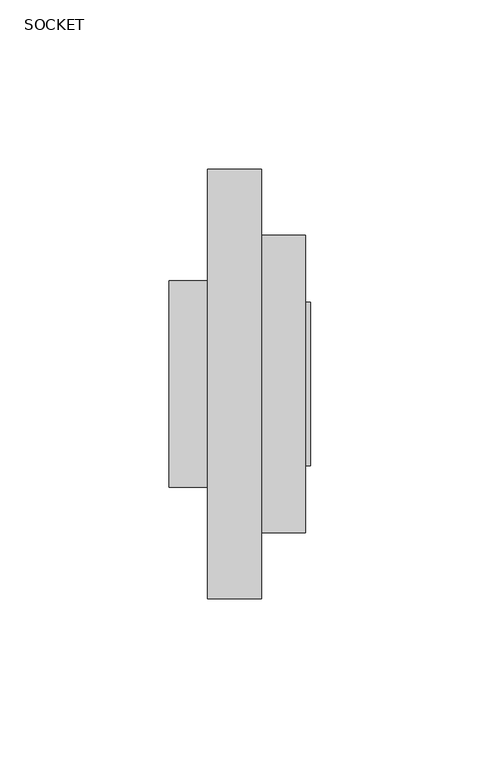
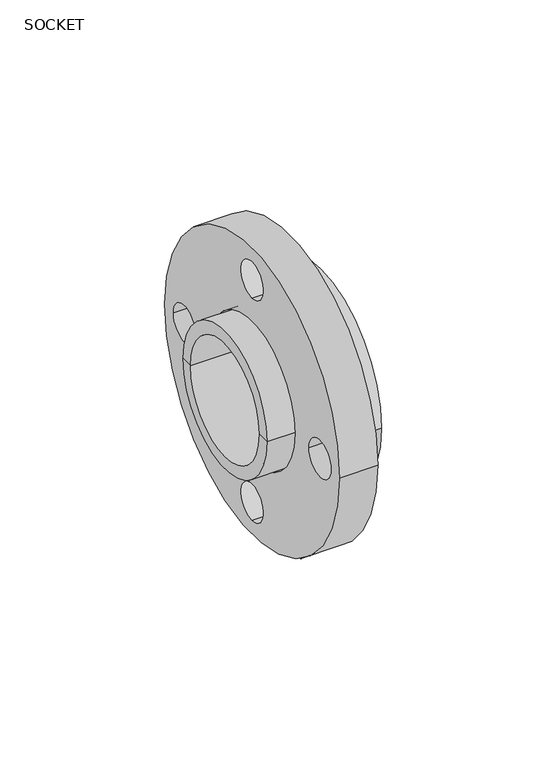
"""IFC4 building model written with IfcOpenShell, lengths in millimetres: valve geometry, Aquatherm - Flange Adapter Socket : SOCKET."""

from ifc_helpers import new_model, si_unit, point, frame, frame_2d, origin, origin_2d, place, context, project, spatial, polyline, circle_curve, trimmed, segment, composite_curve, outline, extrude, source, transform, mapped, element, save
from ifc_brep_helpers import plane_surface, cylinder_surface, revolved_surface, advanced_brep


def socket_f0ba8174(model_context):
    return source(origin(), model_context, "Body", "SolidModel", [
        extrude(outline(composite_curve([segment(trimmed(circle_curve(origin_2d(), 63.5), [point((63.5, 0.0))], [point((-63.5, 0.0))], False, "CARTESIAN"), True, "CONTINUOUS"), segment(trimmed(circle_curve(origin_2d(), 63.5), [point((-63.5, 0.0))], [point((63.5, 0.0))], False, "CARTESIAN"), True, "CONTINUOUS")], self_intersect=False), holes=[composite_curve([segment(trimmed(circle_curve(origin_2d(), 30.988), [point((30.988, 0.0))], [point((-30.988, 0.0))], True, "CARTESIAN"), True, "CONTINUOUS"), segment(trimmed(circle_curve(origin_2d(), 30.988), [point((-30.988, 0.0))], [point((30.988, 0.0))], True, "CARTESIAN"), True, "CONTINUOUS")], self_intersect=False), composite_curve([segment(trimmed(circle_curve(frame_2d((-49.276, 0.0)), 8.001), [point((-41.275, 0.0))], [point((-57.277, 0.0))], True, "CARTESIAN"), True, "CONTINUOUS"), segment(trimmed(circle_curve(frame_2d((-49.276, 0.0)), 8.001), [point((-57.277, 0.0))], [point((-41.275, 0.0))], True, "CARTESIAN"), True, "CONTINUOUS")], self_intersect=False), composite_curve([segment(trimmed(circle_curve(frame_2d((0.0, -49.276)), 8.001), [point((0.0, -41.275))], [point((0.0, -57.277))], True, "CARTESIAN"), True, "CONTINUOUS"), segment(trimmed(circle_curve(frame_2d((0.0, -49.276)), 8.001), [point((0.0, -57.277))], [point((0.0, -41.275))], True, "CARTESIAN"), True, "CONTINUOUS")], self_intersect=False), composite_curve([segment(trimmed(circle_curve(frame_2d((0.0, 49.276)), 8.001), [point((0.0, 41.275))], [point((0.0, 57.277))], True, "CARTESIAN"), True, "CONTINUOUS"), segment(trimmed(circle_curve(frame_2d((0.0, 49.276)), 8.001), [point((0.0, 57.277))], [point((0.0, 41.275))], True, "CARTESIAN"), True, "CONTINUOUS")], self_intersect=False), composite_curve([segment(trimmed(circle_curve(frame_2d((49.276, 0.0)), 8.001), [point((41.275, 0.0))], [point((57.277, 0.0))], True, "CARTESIAN"), True, "CONTINUOUS"), segment(trimmed(circle_curve(frame_2d((49.276, 0.0)), 8.001), [point((57.277, 0.0))], [point((41.275, 0.0))], True, "CARTESIAN"), True, "CONTINUOUS")], self_intersect=False)]), frame((-16.002, 0.0, 0.0), z_axis=(1.0, 0.0, 0.0), x_axis=(0.0, 1.0, 0.0)), (0.0, 0.0, 1.0), 16.002),
        advanced_brep(
        [(14.478, -19.05, 0.0), (14.478, -24.13, 0.0), (14.478, 24.13, 0.0), (14.478, 19.05, 0.0), (-4.064, -19.05, 0.0), (-4.064, 19.05, 0.0), (-4.064, -25.019, 0.0), (-4.064, 25.019, 0.0), (-27.432, -25.019, 0.0), (-27.432, 25.019, 0.0), (-27.432, -30.48, 0.0), (-27.432, 30.48, 0.0), (0.0, -30.48, 0.0), (0.0, 30.48, 0.0), (0.0, -43.942, 0.0), (0.0, 43.942, 0.0), (12.954, -43.942, 0.0), (12.954, 43.942, 0.0), (12.954, -24.13, 0.0), (12.954, 24.13, 0.0)],
        [
            (0, 1),
            (1, 2, circle_curve(frame((14.478, 0.0, 0.0), z_axis=(1.0, 0.0, 0.0), x_axis=(0.0, 1.0, 0.0)), 24.13)),
            (2, 3),
            (3, 0, circle_curve(frame((14.478, 0.0, 0.0), z_axis=(-1.0, 0.0, 0.0), x_axis=(0.0, 1.0, 0.0)), 19.05)),
            (2, 1, circle_curve(frame((14.478, 0.0, 0.0), z_axis=(1.0, 0.0, 0.0), x_axis=(0.0, 1.0, 0.0)), 24.13)),
            (0, 3, circle_curve(frame((14.478, 0.0, 0.0), z_axis=(-1.0, 0.0, 0.0), x_axis=(0.0, 1.0, 0.0)), 19.05)),
            (4, 0),
            (3, 5),
            (5, 4, circle_curve(frame((-4.064, 0.0, 0.0), z_axis=(-1.0, 0.0, 0.0), x_axis=(0.0, 1.0, 0.0)), 19.05)),
            (4, 5, circle_curve(frame((-4.064, 0.0, 0.0), z_axis=(-1.0, 0.0, 0.0), x_axis=(0.0, 1.0, 0.0)), 19.05)),
            (6, 4),
            (5, 7),
            (7, 6, circle_curve(frame((-4.064, 0.0, 0.0), z_axis=(-1.0, 0.0, 0.0), x_axis=(0.0, 1.0, 0.0)), 25.019)),
            (6, 7, circle_curve(frame((-4.064, 0.0, 0.0), z_axis=(-1.0, 0.0, 0.0), x_axis=(0.0, 1.0, 0.0)), 25.019)),
            (8, 6),
            (7, 9),
            (9, 8, circle_curve(frame((-27.432, 0.0, 0.0), z_axis=(-1.0, 0.0, 0.0), x_axis=(0.0, 1.0, 0.0)), 25.019)),
            (8, 9, circle_curve(frame((-27.432, 0.0, 0.0), z_axis=(-1.0, 0.0, 0.0), x_axis=(0.0, 1.0, 0.0)), 25.019)),
            (10, 8),
            (9, 11),
            (11, 10, circle_curve(frame((-27.432, 0.0, 0.0), z_axis=(-1.0, 0.0, 0.0), x_axis=(0.0, 1.0, 0.0)), 30.48)),
            (10, 11, circle_curve(frame((-27.432, 0.0, 0.0), z_axis=(-1.0, 0.0, 0.0), x_axis=(0.0, 1.0, 0.0)), 30.48)),
            (12, 10),
            (11, 13),
            (13, 12, circle_curve(frame((0.0, 0.0, 0.0), z_axis=(-1.0, 0.0, 0.0), x_axis=(0.0, 1.0, 0.0)), 30.48)),
            (12, 13, circle_curve(frame((0.0, 0.0, 0.0), z_axis=(-1.0, 0.0, 0.0), x_axis=(0.0, 1.0, 0.0)), 30.48)),
            (14, 12),
            (13, 15),
            (15, 14, circle_curve(frame((0.0, 0.0, 0.0), z_axis=(-1.0, 0.0, 0.0), x_axis=(0.0, 1.0, 0.0)), 43.942)),
            (14, 15, circle_curve(frame((0.0, 0.0, 0.0), z_axis=(-1.0, 0.0, 0.0), x_axis=(0.0, 1.0, 0.0)), 43.942)),
            (16, 14),
            (15, 17),
            (17, 16, circle_curve(frame((12.954, 0.0, 0.0), z_axis=(-1.0, 0.0, 0.0), x_axis=(0.0, 1.0, 0.0)), 43.942)),
            (16, 17, circle_curve(frame((12.954, 0.0, 0.0), z_axis=(-1.0, 0.0, 0.0), x_axis=(0.0, 1.0, 0.0)), 43.942)),
            (18, 16),
            (17, 19),
            (19, 18, circle_curve(frame((12.954, 0.0, 0.0), z_axis=(-1.0, 0.0, 0.0), x_axis=(0.0, 1.0, 0.0)), 24.13)),
            (18, 19, circle_curve(frame((12.954, 0.0, 0.0), z_axis=(-1.0, 0.0, 0.0), x_axis=(0.0, 1.0, 0.0)), 24.13)),
            (1, 18),
            (19, 2),
        ],
        [
            plane_surface(frame((14.478, 0.0, 0.0), z_axis=(1.0, 0.0, 0.0), x_axis=(0.0, 1.0, 0.0))),
            revolved_surface(polyline([(14.478000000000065, 19.05, 0.0), (-4.064000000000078, 19.05, 0.0)]), (1443.7731939, 0.0, 0.0), (1.0, 0.0, 0.0)),
            plane_surface(frame((-4.064, 0.0, 0.0), z_axis=(-1.0, 0.0, 0.0), x_axis=(0.0, 1.0, 0.0))),
            revolved_surface(polyline([(-4.064000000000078, 25.019, 0.0), (-27.432000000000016, 25.019, 0.0)]), (1443.7731939, 0.0, 0.0), (1.0, 0.0, 0.0)),
            plane_surface(frame((-27.432, 0.0, 0.0), z_axis=(-1.0, 0.0, 0.0), x_axis=(0.0, 1.0, 0.0))),
            cylinder_surface(frame((1443.7731939, 0.0, 0.0), z_axis=(1.0, 0.0, 0.0), x_axis=(0.0, 1.0, 0.0)), 30.48),
            plane_surface(frame((0.0, 0.0, 0.0), z_axis=(-1.0, 0.0, 0.0), x_axis=(0.0, 1.0, 0.0))),
            cylinder_surface(frame((1443.7731939, 0.0, 0.0), z_axis=(1.0, 0.0, 0.0), x_axis=(0.0, 1.0, 0.0)), 43.942),
            plane_surface(frame((12.954, 0.0, 0.0), z_axis=(1.0, 0.0, 0.0), x_axis=(0.0, 1.0, 0.0))),
            cylinder_surface(frame((1443.7731939, 0.0, 0.0), z_axis=(1.0, 0.0, 0.0), x_axis=(0.0, 1.0, 0.0)), 24.13),
        ],
        [
            (0, [[1, 2, 3, 4]]),
            (0, [[-3, 5, -1, 6]]),
            (1, [[7, -4, 8, 9]]),
            (1, [[-8, -6, -7, 10]]),
            (2, [[11, -9, 12, 13]]),
            (2, [[-12, -10, -11, 14]]),
            (3, [[15, -13, 16, 17]]),
            (3, [[-16, -14, -15, 18]]),
            (4, [[19, -17, 20, 21]]),
            (4, [[-20, -18, -19, 22]]),
            (5, [[23, -21, 24, 25]]),
            (5, [[-24, -22, -23, 26]]),
            (6, [[27, -25, 28, 29]]),
            (6, [[-28, -26, -27, 30]]),
            (7, [[31, -29, 32, 33]]),
            (7, [[-32, -30, -31, 34]]),
            (8, [[35, -33, 36, 37]]),
            (8, [[-36, -34, -35, 38]]),
            (9, [[39, -37, 40, -2]]),
            (9, [[-40, -38, -39, -5]]),
        ],
    ),
    ])


if __name__ == "__main__":
    model = new_model("IFC4")
    model_context = context("Model", 3, world=origin())
    ifc_project = project(units=[si_unit("LENGTHUNIT", "METRE", prefix="MILLI")], contexts=[model_context])
    site = spatial("IfcSite", under=ifc_project)
    building = spatial("IfcBuilding", under=site)
    placement = place(None, origin())
    ifc_socket_shape = socket_f0ba8174(model_context)
    element("IfcValve", 1, ObjectType="Aquatherm - Flange Adapter Socket : SOCKET", at=placement, inside=building, context=model_context, shape_type="MappedRepresentation", body=[
        mapped(ifc_socket_shape, transform((0.0, 0.0, 0.0), x_axis=(1.0, 0.0, 0.0), y_axis=(0.0, 1.0, 0.0), z_axis=(0.0, 0.0, 1.0))),
    ])
    save(model, "model.ifc")
